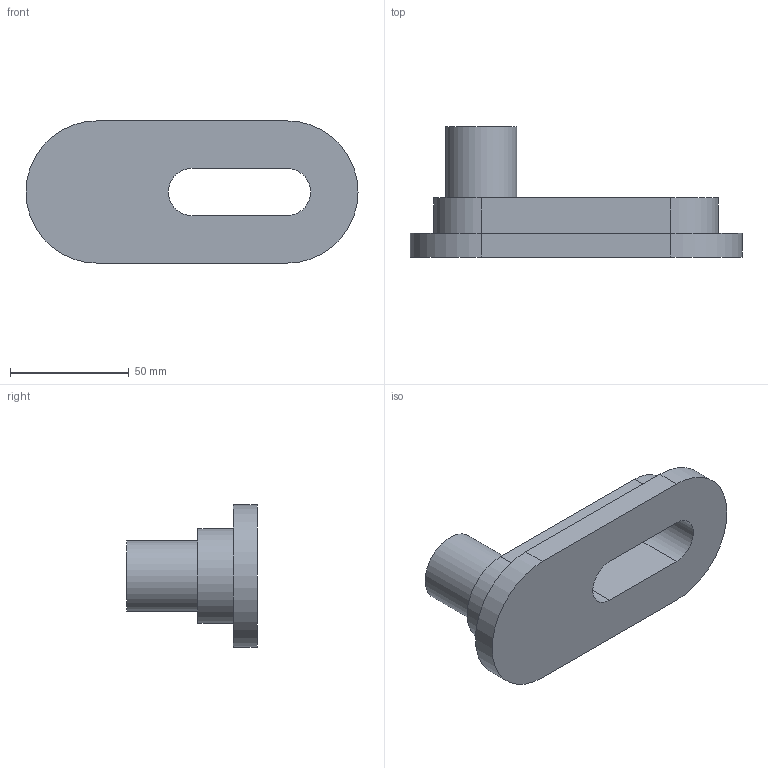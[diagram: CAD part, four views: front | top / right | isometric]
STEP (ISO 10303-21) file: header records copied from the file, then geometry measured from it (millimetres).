
FILE_DESCRIPTION(/* description */ (''),/* implementation_level */ '2;1');
FILE_NAME(/* name */ 'E:\OneDrive\School\Courses\Graphic Communication\Higher\Projects\Technical Graphics\Higher GC Technical Graphics\AS STEP\Section_4.stp',/* time_stamp */ '2020-12-07T16:35:14+00:00',/* author */ ('hunte'),/* organization */ (''),/* preprocessor_version */ 'ST-DEVELOPER v18.1',/* originating_system */ 'Autodesk Inventor 2020',/* authorisation */ '');
FILE_SCHEMA (('AUTOMOTIVE_DESIGN { 1 0 10303 214 3 1 1 }'));
Length unit declared in the file: millimetre
Products named in the file (1): Section_4
Bounding box: 140 x 55 x 60 mm (x, y, z)
Volume: 127050.9 mm3; surface area: 29079.6 mm2
Topology: 1 solids, 1 shells, 19 faces, 44 edges, 30 vertices
Faces by surface type: plane 11, cylinder 8
Full cylindrical faces by diameter (mm): 20 x1, 30 x1
Entity records: 597 total; most frequent: DIRECTION 102, CARTESIAN_POINT 94, ORIENTED_EDGE 88, EDGE_CURVE 44, AXIS2_PLACEMENT_3D 38, VERTEX_POINT 30, LINE 26, VECTOR 26
